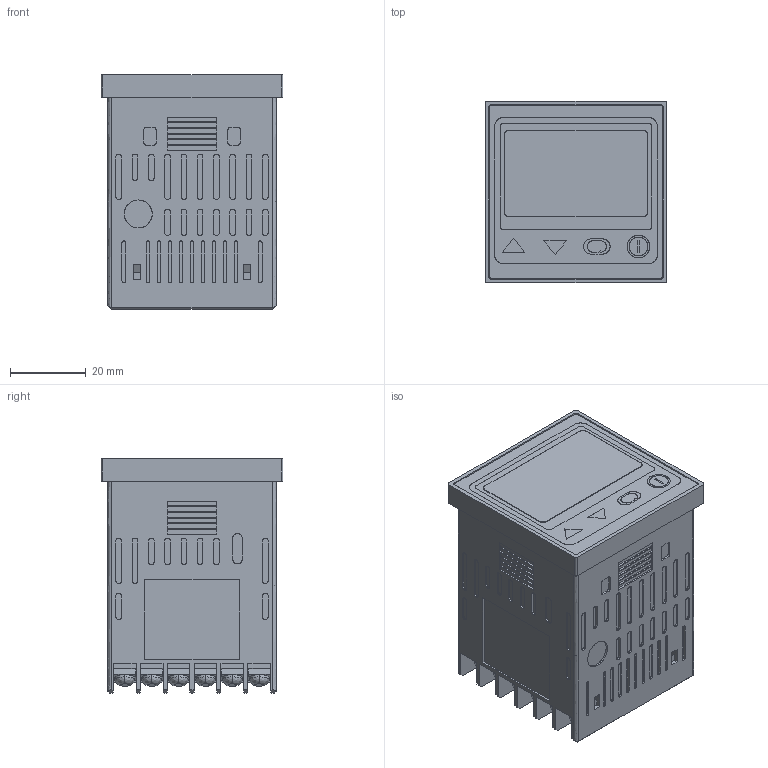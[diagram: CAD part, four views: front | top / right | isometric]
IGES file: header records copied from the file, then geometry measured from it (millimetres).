
Start section: SolidWorks IGES file using analytic representation for surfaces
Global section: file name: \\Mecha-dt\data\mecha_3d\A\ACS-13A\HP_3D\ACS-13A_step\ACS-13A1.IGS; native system: SolidWorks 2017; preprocessor: SolidWorks 2017; author: kawahara; date: 180227.115432; units: millimetre
Bounding box: 48 x 48 x 62 mm (x, y, z)
Surface area: 21378.3 mm2 (no closed solid volume)
Topology: 0 solids, 0 shells, 1048 faces, 8578 edges, 8578 vertices
Faces by surface type: bspline 752, revolution 296
